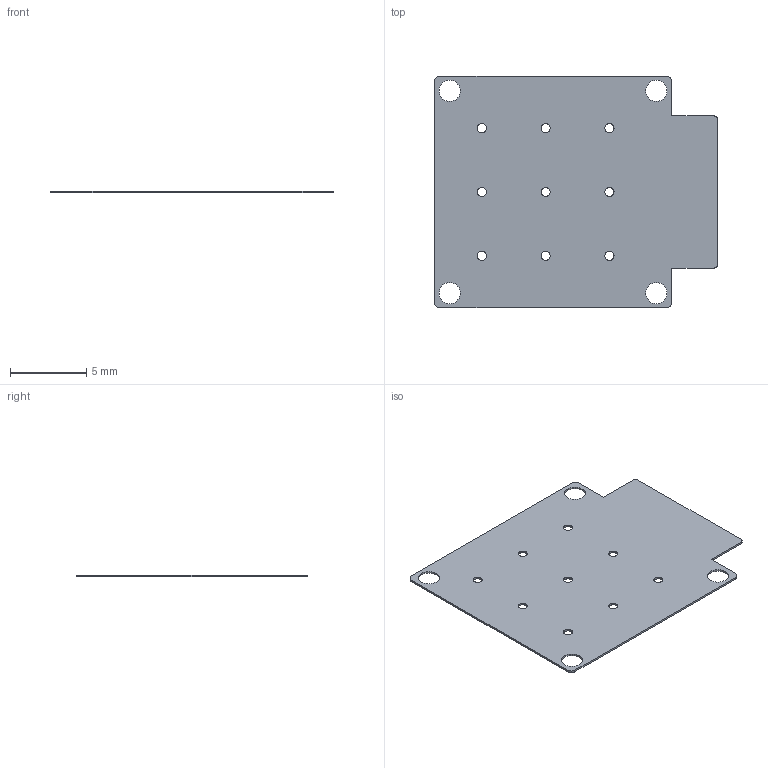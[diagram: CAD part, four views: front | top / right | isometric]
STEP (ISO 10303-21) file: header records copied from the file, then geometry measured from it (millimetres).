
FILE_DESCRIPTION(('Open CASCADE Model'),'2;1');
FILE_NAME('Open CASCADE Shape Model','2026-11-23T03:42:15',('Author'),( 'Open CASCADE'),'Open CASCADE STEP processor 7.9','Open CASCADE 7.9' ,'Unknown');
FILE_SCHEMA(('AUTOMOTIVE_DESIGN { 1 0 10303 214 1 1 1 1 }'));
Length unit declared in the file: millimetre
Products named in the file (1): Open CASCADE STEP translator 7.9 4
Bounding box: 18.6 x 15.2 x 0.13 mm (x, y, z)
Volume: 32.8 mm3; surface area: 529.5 mm2
Topology: 1 solids, 1 shells, 71 faces, 207 edges, 138 vertices
Faces by surface type: plane 58, cylinder 13
Full cylindrical faces by diameter (mm): 0.6 x9, 1.4 x4
Entity records: 5158 total; most frequent: CARTESIAN_POINT 987, DIRECTION 765, LINE 569, VECTOR 569, ORIENTED_EDGE 414, PCURVE 414, DEFINITIONAL_REPRESENTATION 414, EDGE_CURVE 207
